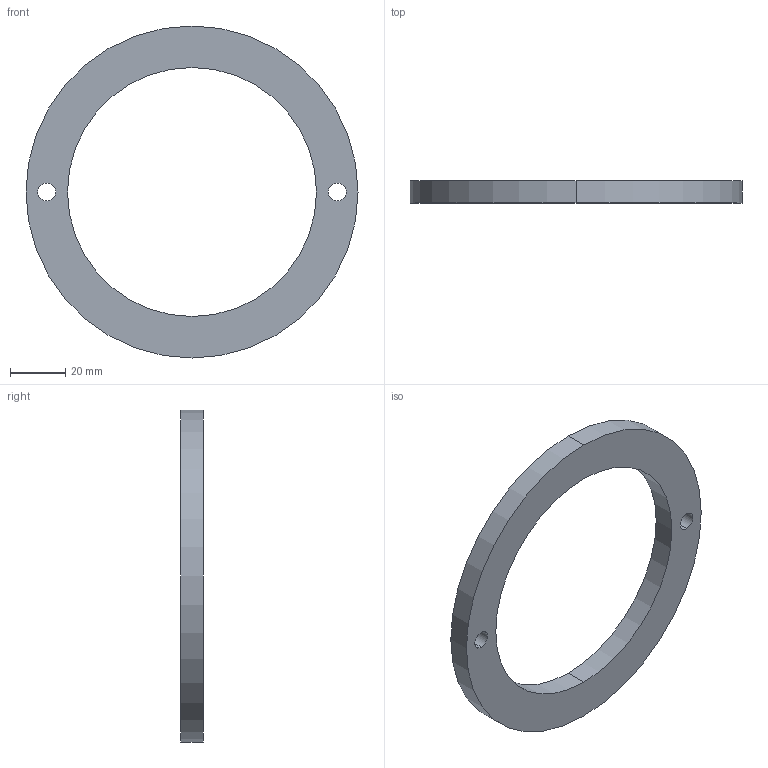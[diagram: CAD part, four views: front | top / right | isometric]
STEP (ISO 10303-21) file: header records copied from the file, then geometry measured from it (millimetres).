
FILE_DESCRIPTION (( 'STEP AP214' ), '1' );
FILE_NAME ('BRDCO-120.STEP', '2020-02-05T09:09:06', ( 'August' ), ( '' ), 'SwSTEP 2.0', 'SolidWorks 2018', '' );
FILE_SCHEMA (( 'AUTOMOTIVE_DESIGN' ));
Length unit declared in the file: millimetre
Products named in the file (1): BRDCO-120
Bounding box: 120 x 8 x 120 mm (x, y, z)
Volume: 39053.1 mm3; surface area: 15367.9 mm2
Topology: 1 solids, 1 shells, 10 faces, 24 edges, 16 vertices
Faces by surface type: cylinder 8, plane 2
Entity records: 350 total; most frequent: DIRECTION 62, CARTESIAN_POINT 51, ORIENTED_EDGE 48, AXIS2_PLACEMENT_3D 27, EDGE_CURVE 24, EDGE_LOOP 16, CIRCLE 16, VERTEX_POINT 16
